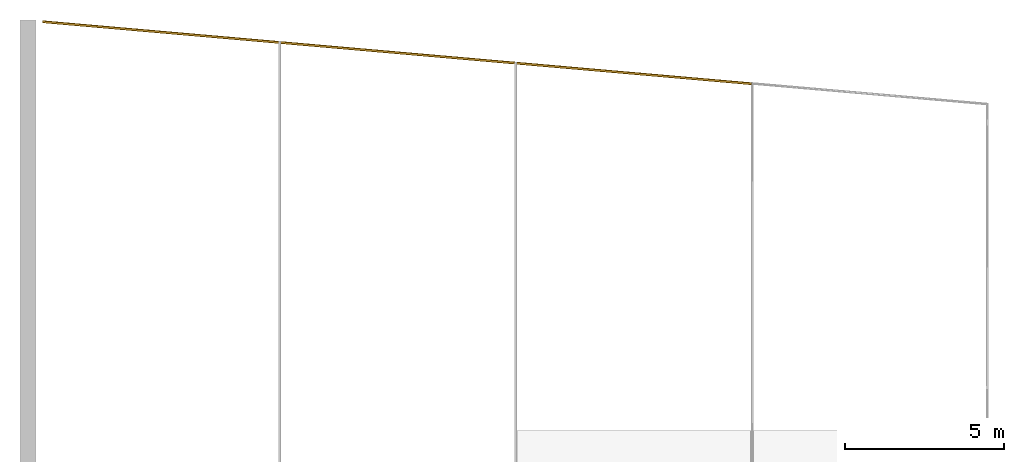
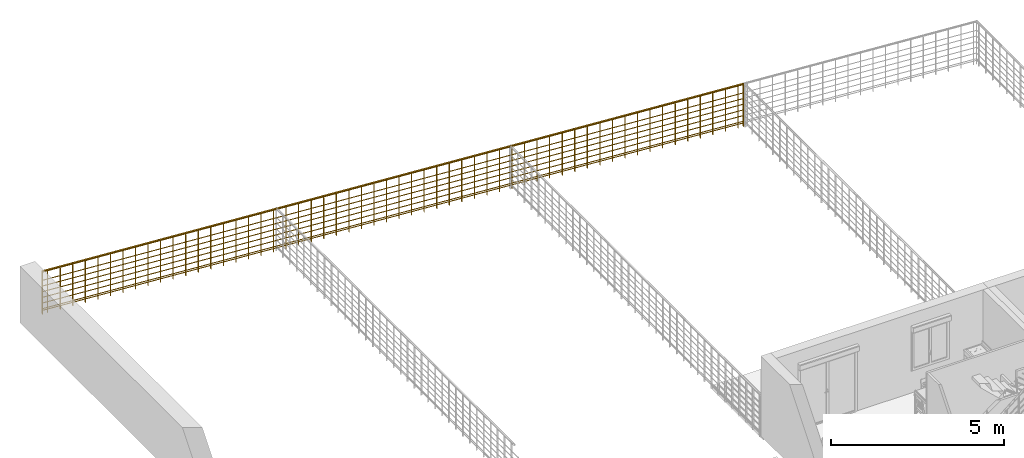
# One storey, part 28 of 30: 1 railing.
"""IFC2X3 building model written with IfcOpenShell, lengths in metres."""

from ifc_helpers import new_model, entity, si_unit, converted_unit, derived_unit, direction, frame, frame_2d, origin, origin_2d_with_axis, place, context, subcontext, project, spatial, polyline, rectangle, circle, outline, extrude, material, material_list, element, save


model = new_model("IFC2X3")

# Units and contexts
model_context = context("Model", 3, precision=1e-05, world=origin(), true_north=direction((6.12303176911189e-17, 1.0)))
body_context = subcontext(model_context, "Body", "Model", "MODEL_VIEW")
ifc_project = project(units=[si_unit("LENGTHUNIT", "METRE"), si_unit("AREAUNIT", "SQUARE_METRE"), si_unit("VOLUMEUNIT", "CUBIC_METRE"), converted_unit("PLANEANGLEUNIT", "DEGREE", entity("IfcRatioMeasure", 0.0174532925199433), si_unit("PLANEANGLEUNIT", "RADIAN"), dimensions=[0, 0, 0, 0, 0, 0, 0]), si_unit("MASSUNIT", "GRAM", prefix="KILO"), derived_unit("MASSDENSITYUNIT", [(si_unit("MASSUNIT", "GRAM", prefix="KILO"), 1), (si_unit("LENGTHUNIT", "METRE"), -3)]), si_unit("TIMEUNIT", "SECOND"), si_unit("FREQUENCYUNIT", "HERTZ"), si_unit("THERMODYNAMICTEMPERATUREUNIT", "DEGREE_CELSIUS"), derived_unit("THERMALTRANSMITTANCEUNIT", [(si_unit("MASSUNIT", "GRAM", prefix="KILO"), 1), (si_unit("THERMODYNAMICTEMPERATUREUNIT", "KELVIN"), -1), (si_unit("TIMEUNIT", "SECOND"), -3)]), derived_unit("VOLUMETRICFLOWRATEUNIT", [(si_unit("LENGTHUNIT", "METRE"), 3), (si_unit("TIMEUNIT", "SECOND"), -1)]), si_unit("ELECTRICCURRENTUNIT", "AMPERE"), si_unit("ELECTRICVOLTAGEUNIT", "VOLT"), si_unit("POWERUNIT", "WATT"), si_unit("FORCEUNIT", "NEWTON", prefix="KILO"), si_unit("ILLUMINANCEUNIT", "LUX"), si_unit("LUMINOUSFLUXUNIT", "LUMEN"), si_unit("LUMINOUSINTENSITYUNIT", "CANDELA"), derived_unit("USERDEFINED", [(si_unit("MASSUNIT", "GRAM", prefix="KILO"), -1), (si_unit("LENGTHUNIT", "METRE"), -2), (si_unit("TIMEUNIT", "SECOND"), 3), (si_unit("LUMINOUSFLUXUNIT", "LUMEN"), 1)]), derived_unit("LINEARVELOCITYUNIT", [(si_unit("LENGTHUNIT", "METRE"), 1), (si_unit("TIMEUNIT", "SECOND"), -1)]), si_unit("PRESSUREUNIT", "PASCAL"), derived_unit("USERDEFINED", [(si_unit("LENGTHUNIT", "METRE"), -2), (si_unit("MASSUNIT", "GRAM", prefix="KILO"), 1), (si_unit("TIMEUNIT", "SECOND"), -2)])], contexts=[model_context])

# Site, building, storey
site_placement = place(None, origin())
site = spatial("IfcSite", under=ifc_project, at=site_placement, Name="Surface", CompositionType="ELEMENT")
building_placement = place(site_placement, origin())
building = spatial("IfcBuilding", under=site, at=building_placement, CompositionType="ELEMENT")
storey_placement = place(building_placement, origin())
storey = spatial("IfcBuildingStorey", under=building, at=storey_placement, Name="Plan des fondations  Maisons 1 et 2", CompositionType="ELEMENT", Elevation=0.0)

# Railing
ifc_material_1 = material(Name="Bois")
ifc_material_2 = material(Name="Finition Peinture Grise")
ifc_material_list = material_list([ifc_material_1, ifc_material_2])
railing_placement = place(building_placement, origin())
element("IfcRailing", 1, at=railing_placement, inside=storey, material=ifc_material_list, Name="Garde-corps:Type Bateau 1,50 m", ObjectType="Garde-corps:Type Bateau 1,50 m", PredefinedType="NOTDEFINED", context=body_context, shape_type="SweptSolid", body=[
    extrude(rectangle(XDim=0.0499999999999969, YDim=0.0139999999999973, at=frame_2d((-3.78169717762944e-16, 4.3155583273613e-15), x_axis=(1.0, 0.0))), frame((61.640560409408, 108.276178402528, -0.1), z_axis=(0.0, 0.0, 1.0), x_axis=(-0.0871557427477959, -0.996194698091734, 0.0)), (0.0, 0.0, 1.0), 1.46984653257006),
    extrude(rectangle(XDim=0.0499999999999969, YDim=0.0139999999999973, at=frame_2d((-3.78169717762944e-16, 4.3155583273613e-15), x_axis=(1.0, 0.0))), frame((62.0390382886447, 108.241316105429, -0.1), z_axis=(0.0, 0.0, 1.0), x_axis=(-0.0871557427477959, -0.996194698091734, 0.0)), (0.0, 0.0, 1.0), 1.46984653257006),
    extrude(rectangle(XDim=0.0499999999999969, YDim=0.0139999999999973, at=frame_2d((-3.78169717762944e-16, 4.3155583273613e-15), x_axis=(1.0, 0.0))), frame((62.4375161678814, 108.20645380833, -0.1), z_axis=(0.0, 0.0, 1.0), x_axis=(-0.0871557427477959, -0.996194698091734, 0.0)), (0.0, 0.0, 1.0), 1.46984653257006),
    extrude(rectangle(XDim=0.0499999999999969, YDim=0.0139999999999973, at=frame_2d((-3.78169717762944e-16, 4.3155583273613e-15), x_axis=(1.0, 0.0))), frame((62.8359940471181, 108.171591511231, -0.1), z_axis=(0.0, 0.0, 1.0), x_axis=(-0.0871557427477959, -0.996194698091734, 0.0)), (0.0, 0.0, 1.0), 1.46984653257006),
    extrude(rectangle(XDim=0.0499999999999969, YDim=0.0139999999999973, at=frame_2d((-3.78169717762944e-16, 4.3155583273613e-15), x_axis=(1.0, 0.0))), frame((63.2344719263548, 108.136729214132, -0.1), z_axis=(0.0, 0.0, 1.0), x_axis=(-0.0871557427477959, -0.996194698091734, 0.0)), (0.0, 0.0, 1.0), 1.46984653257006),
    extrude(rectangle(XDim=0.0499999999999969, YDim=0.0139999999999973, at=frame_2d((3.78169717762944e-16, -4.3155583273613e-15), x_axis=(1.0, 0.0))), frame((63.6329498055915, 108.101866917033, -0.1), z_axis=(0.0, 0.0, 1.0), x_axis=(-0.0871557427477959, -0.996194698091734, 0.0)), (0.0, 0.0, 1.0), 1.46984653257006),
    extrude(rectangle(XDim=0.0499999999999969, YDim=0.0139999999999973, at=frame_2d((-3.78169717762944e-16, 4.3155583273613e-15), x_axis=(1.0, 0.0))), frame((64.0314276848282, 108.067004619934, -0.1), z_axis=(0.0, 0.0, 1.0), x_axis=(-0.0871557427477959, -0.996194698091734, 0.0)), (0.0, 0.0, 1.0), 1.46984653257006),
    extrude(rectangle(XDim=0.0499999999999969, YDim=0.0139999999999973, at=frame_2d((-1.76386683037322e-14, 2.80548154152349e-15), x_axis=(1.0, 0.0))), frame((64.4299055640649, 108.032142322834, -0.1), z_axis=(0.0, 0.0, 1.0), x_axis=(-0.0871557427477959, -0.996194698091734, 0.0)), (0.0, 0.0, 1.0), 1.46984653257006),
    extrude(rectangle(XDim=0.0499999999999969, YDim=0.0139999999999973, at=frame_2d((-3.78169717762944e-16, 4.3155583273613e-15), x_axis=(1.0, 0.0))), frame((64.8283834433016, 107.997280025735, -0.1), z_axis=(0.0, 0.0, 1.0), x_axis=(-0.0871557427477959, -0.996194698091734, 0.0)), (0.0, 0.0, 1.0), 1.46984653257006),
    extrude(rectangle(XDim=0.0499999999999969, YDim=0.0139999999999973, at=frame_2d((-3.78169717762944e-16, 4.3155583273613e-15), x_axis=(1.0, 0.0))), frame((65.2268613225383, 107.962417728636, -0.1), z_axis=(0.0, 0.0, 1.0), x_axis=(-0.0871557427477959, -0.996194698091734, 0.0)), (0.0, 0.0, 1.0), 1.46984653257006),
    extrude(rectangle(XDim=0.0499999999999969, YDim=0.0139999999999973, at=frame_2d((-3.78169717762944e-16, 4.3155583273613e-15), x_axis=(1.0, 0.0))), frame((65.625339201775, 107.927555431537, -0.1), z_axis=(0.0, 0.0, 1.0), x_axis=(-0.0871557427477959, -0.996194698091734, 0.0)), (0.0, 0.0, 1.0), 1.46984653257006),
    extrude(rectangle(XDim=0.0499999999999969, YDim=0.0139999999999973, at=frame_2d((-3.78169717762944e-16, 4.3155583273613e-15), x_axis=(1.0, 0.0))), frame((66.0238170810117, 107.892693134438, -0.1), z_axis=(0.0, 0.0, 1.0), x_axis=(-0.0871557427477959, -0.996194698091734, 0.0)), (0.0, 0.0, 1.0), 1.46984653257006),
    extrude(rectangle(XDim=0.0499999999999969, YDim=0.0139999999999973, at=frame_2d((-3.78169717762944e-16, 4.3155583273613e-15), x_axis=(1.0, 0.0))), frame((66.4222949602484, 107.857830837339, -0.1), z_axis=(0.0, 0.0, 1.0), x_axis=(-0.0871557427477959, -0.996194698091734, 0.0)), (0.0, 0.0, 1.0), 1.46984653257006),
    extrude(rectangle(XDim=0.0499999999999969, YDim=0.0139999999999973, at=frame_2d((-3.78169717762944e-16, 4.3155583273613e-15), x_axis=(1.0, 0.0))), frame((66.8207728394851, 107.82296854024, -0.1), z_axis=(0.0, 0.0, 1.0), x_axis=(-0.0871557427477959, -0.996194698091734, 0.0)), (0.0, 0.0, 1.0), 1.46984653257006),
    extrude(rectangle(XDim=0.0499999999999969, YDim=0.0139999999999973, at=frame_2d((-1.76386683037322e-14, 2.80548154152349e-15), x_axis=(1.0, 0.0))), frame((67.2192507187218, 107.788106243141, -0.1), z_axis=(0.0, 0.0, 1.0), x_axis=(-0.0871557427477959, -0.996194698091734, 0.0)), (0.0, 0.0, 1.0), 1.46984653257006),
    extrude(rectangle(XDim=0.0499999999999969, YDim=0.0139999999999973, at=frame_2d((-3.78169717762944e-16, 4.3155583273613e-15), x_axis=(1.0, 0.0))), frame((67.6177285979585, 107.753243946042, -0.1), z_axis=(0.0, 0.0, 1.0), x_axis=(-0.0871557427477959, -0.996194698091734, 0.0)), (0.0, 0.0, 1.0), 1.46984653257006),
    extrude(rectangle(XDim=0.0499999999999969, YDim=0.0139999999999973, at=frame_2d((-3.78169717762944e-16, 4.3155583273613e-15), x_axis=(1.0, 0.0))), frame((68.0162064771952, 107.718381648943, -0.1), z_axis=(0.0, 0.0, 1.0), x_axis=(-0.0871557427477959, -0.996194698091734, 0.0)), (0.0, 0.0, 1.0), 1.46984653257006),
    extrude(rectangle(XDim=0.0499999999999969, YDim=0.0139999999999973, at=frame_2d((3.78169717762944e-16, -4.3155583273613e-15), x_axis=(1.0, 0.0))), frame((68.4146843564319, 107.683519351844, -0.1), z_axis=(0.0, 0.0, 1.0), x_axis=(-0.0871557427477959, -0.996194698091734, 0.0)), (0.0, 0.0, 1.0), 1.46984653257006),
    extrude(rectangle(XDim=0.0499999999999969, YDim=0.0139999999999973, at=frame_2d((-3.78169717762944e-16, 4.3155583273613e-15), x_axis=(1.0, 0.0))), frame((68.8131622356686, 107.648657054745, -0.1), z_axis=(0.0, 0.0, 1.0), x_axis=(-0.0871557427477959, -0.996194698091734, 0.0)), (0.0, 0.0, 1.0), 1.46984653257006),
    extrude(rectangle(XDim=0.0499999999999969, YDim=0.0139999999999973, at=frame_2d((-3.78169717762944e-16, 4.3155583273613e-15), x_axis=(1.0, 0.0))), frame((69.2116401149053, 107.613794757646, -0.1), z_axis=(0.0, 0.0, 1.0), x_axis=(-0.0871557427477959, -0.996194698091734, 0.0)), (0.0, 0.0, 1.0), 1.46984653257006),
    extrude(rectangle(XDim=0.0499999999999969, YDim=0.0139999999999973, at=frame_2d((-3.78169717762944e-16, 4.3155583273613e-15), x_axis=(1.0, 0.0))), frame((69.610117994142, 107.578932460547, -0.1), z_axis=(0.0, 0.0, 1.0), x_axis=(-0.0871557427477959, -0.996194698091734, 0.0)), (0.0, 0.0, 1.0), 1.46984653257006),
    extrude(rectangle(XDim=0.0499999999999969, YDim=0.0139999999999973, at=frame_2d((-3.78169717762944e-16, 4.3155583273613e-15), x_axis=(1.0, 0.0))), frame((70.0085958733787, 107.544070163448, -0.1), z_axis=(0.0, 0.0, 1.0), x_axis=(-0.0871557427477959, -0.996194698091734, 0.0)), (0.0, 0.0, 1.0), 1.46984653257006),
    extrude(rectangle(XDim=0.0499999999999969, YDim=0.0139999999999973, at=frame_2d((-3.78169717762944e-16, 4.3155583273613e-15), x_axis=(1.0, 0.0))), frame((70.4070737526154, 107.509207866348, -0.1), z_axis=(0.0, 0.0, 1.0), x_axis=(-0.0871557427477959, -0.996194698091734, 0.0)), (0.0, 0.0, 1.0), 1.46984653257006),
    extrude(rectangle(XDim=0.0499999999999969, YDim=0.0139999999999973, at=frame_2d((-3.78169717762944e-16, 4.3155583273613e-15), x_axis=(1.0, 0.0))), frame((70.8055516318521, 107.474345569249, -0.1), z_axis=(0.0, 0.0, 1.0), x_axis=(-0.0871557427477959, -0.996194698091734, 0.0)), (0.0, 0.0, 1.0), 1.46984653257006),
    extrude(rectangle(XDim=0.0499999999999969, YDim=0.0139999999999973, at=frame_2d((3.78169717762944e-16, -4.3155583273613e-15), x_axis=(1.0, 0.0))), frame((71.2040295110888, 107.43948327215, -0.1), z_axis=(0.0, 0.0, 1.0), x_axis=(-0.0871557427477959, -0.996194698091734, 0.0)), (0.0, 0.0, 1.0), 1.46984653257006),
    extrude(rectangle(XDim=0.0499999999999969, YDim=0.0139999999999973, at=frame_2d((-3.78169717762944e-16, 4.3155583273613e-15), x_axis=(1.0, 0.0))), frame((71.6025073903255, 107.404620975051, -0.1), z_axis=(0.0, 0.0, 1.0), x_axis=(-0.0871557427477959, -0.996194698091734, 0.0)), (0.0, 0.0, 1.0), 1.46984653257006),
    extrude(rectangle(XDim=0.0499999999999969, YDim=0.0139999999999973, at=frame_2d((-3.78169717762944e-16, 4.3155583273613e-15), x_axis=(1.0, 0.0))), frame((72.0009852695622, 107.369758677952, -0.1), z_axis=(0.0, 0.0, 1.0), x_axis=(-0.0871557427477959, -0.996194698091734, 0.0)), (0.0, 0.0, 1.0), 1.46984653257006),
    extrude(rectangle(XDim=0.0499999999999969, YDim=0.0139999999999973, at=frame_2d((-3.78169717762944e-16, 4.3155583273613e-15), x_axis=(1.0, 0.0))), frame((72.3994631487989, 107.334896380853, -0.1), z_axis=(0.0, 0.0, 1.0), x_axis=(-0.0871557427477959, -0.996194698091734, 0.0)), (0.0, 0.0, 1.0), 1.46984653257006),
    extrude(rectangle(XDim=0.0499999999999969, YDim=0.0139999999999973, at=frame_2d((-3.78169717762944e-16, 4.3155583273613e-15), x_axis=(1.0, 0.0))), frame((72.7979410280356, 107.300034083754, -0.1), z_axis=(0.0, 0.0, 1.0), x_axis=(-0.0871557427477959, -0.996194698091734, 0.0)), (0.0, 0.0, 1.0), 1.46984653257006),
    extrude(rectangle(XDim=0.0499999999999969, YDim=0.0139999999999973, at=frame_2d((-1.76386683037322e-14, 2.80548154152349e-15), x_axis=(1.0, 0.0))), frame((73.1964189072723, 107.265171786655, -0.1), z_axis=(0.0, 0.0, 1.0), x_axis=(-0.0871557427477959, -0.996194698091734, 0.0)), (0.0, 0.0, 1.0), 1.46984653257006),
    extrude(rectangle(XDim=0.0499999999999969, YDim=0.0139999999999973, at=frame_2d((-3.78169717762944e-16, 4.3155583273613e-15), x_axis=(1.0, 0.0))), frame((73.594896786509, 107.230309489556, -0.1), z_axis=(0.0, 0.0, 1.0), x_axis=(-0.0871557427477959, -0.996194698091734, 0.0)), (0.0, 0.0, 1.0), 1.46984653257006),
    extrude(rectangle(XDim=0.0499999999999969, YDim=0.0139999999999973, at=frame_2d((-3.78169717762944e-16, 4.3155583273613e-15), x_axis=(1.0, 0.0))), frame((73.9933746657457, 107.195447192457, -0.1), z_axis=(0.0, 0.0, 1.0), x_axis=(-0.0871557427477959, -0.996194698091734, 0.0)), (0.0, 0.0, 1.0), 1.46984653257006),
    extrude(rectangle(XDim=0.0499999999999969, YDim=0.0139999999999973, at=frame_2d((-3.78169717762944e-16, 4.3155583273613e-15), x_axis=(1.0, 0.0))), frame((74.3918525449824, 107.160584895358, -0.1), z_axis=(0.0, 0.0, 1.0), x_axis=(-0.0871557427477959, -0.996194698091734, 0.0)), (0.0, 0.0, 1.0), 1.46984653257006),
    extrude(rectangle(XDim=0.0499999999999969, YDim=0.0139999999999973, at=frame_2d((-3.78169717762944e-16, 4.3155583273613e-15), x_axis=(1.0, 0.0))), frame((74.7903304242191, 107.125722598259, -0.1), z_axis=(0.0, 0.0, 1.0), x_axis=(-0.0871557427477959, -0.996194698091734, 0.0)), (0.0, 0.0, 1.0), 1.46984653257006),
    extrude(rectangle(XDim=0.0499999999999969, YDim=0.0139999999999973, at=frame_2d((-3.78169717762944e-16, 4.3155583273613e-15), x_axis=(1.0, 0.0))), frame((75.1888083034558, 107.09086030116, -0.1), z_axis=(0.0, 0.0, 1.0), x_axis=(-0.0871557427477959, -0.996194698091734, 0.0)), (0.0, 0.0, 1.0), 1.46984653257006),
    extrude(rectangle(XDim=0.0499999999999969, YDim=0.0139999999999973, at=frame_2d((-3.78169717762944e-16, 4.3155583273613e-15), x_axis=(1.0, 0.0))), frame((75.5872861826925, 107.055998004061, -0.1), z_axis=(0.0, 0.0, 1.0), x_axis=(-0.0871557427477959, -0.996194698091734, 0.0)), (0.0, 0.0, 1.0), 1.46984653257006),
    extrude(rectangle(XDim=0.0499999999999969, YDim=0.0139999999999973, at=frame_2d((-1.76386683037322e-14, 2.80548154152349e-15), x_axis=(1.0, 0.0))), frame((75.9857640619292, 107.021135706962, -0.1), z_axis=(0.0, 0.0, 1.0), x_axis=(-0.0871557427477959, -0.996194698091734, 0.0)), (0.0, 0.0, 1.0), 1.46984653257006),
    extrude(rectangle(XDim=0.0499999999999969, YDim=0.0139999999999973, at=frame_2d((-3.78169717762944e-16, 4.3155583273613e-15), x_axis=(1.0, 0.0))), frame((76.3842419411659, 106.986273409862, -0.1), z_axis=(0.0, 0.0, 1.0), x_axis=(-0.0871557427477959, -0.996194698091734, 0.0)), (0.0, 0.0, 1.0), 1.46984653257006),
    extrude(rectangle(XDim=0.0499999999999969, YDim=0.0139999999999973, at=frame_2d((-3.78169717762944e-16, 4.3155583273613e-15), x_axis=(1.0, 0.0))), frame((76.7827198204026, 106.951411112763, -0.1), z_axis=(0.0, 0.0, 1.0), x_axis=(-0.0871557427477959, -0.996194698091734, 0.0)), (0.0, 0.0, 1.0), 1.46984653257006),
    extrude(rectangle(XDim=0.0499999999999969, YDim=0.0139999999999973, at=frame_2d((-3.78169717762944e-16, 4.3155583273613e-15), x_axis=(1.0, 0.0))), frame((77.1811976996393, 106.916548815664, -0.1), z_axis=(0.0, 0.0, 1.0), x_axis=(-0.0871557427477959, -0.996194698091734, 0.0)), (0.0, 0.0, 1.0), 1.46984653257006),
    extrude(rectangle(XDim=0.0499999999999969, YDim=0.0139999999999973, at=frame_2d((-3.78169717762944e-16, 4.3155583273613e-15), x_axis=(1.0, 0.0))), frame((77.579675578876, 106.881686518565, -0.1), z_axis=(0.0, 0.0, 1.0), x_axis=(-0.0871557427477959, -0.996194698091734, 0.0)), (0.0, 0.0, 1.0), 1.46984653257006),
    extrude(rectangle(XDim=0.0499999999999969, YDim=0.0139999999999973, at=frame_2d((-3.78169717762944e-16, 4.3155583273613e-15), x_axis=(1.0, 0.0))), frame((77.9781534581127, 106.846824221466, -0.1), z_axis=(0.0, 0.0, 1.0), x_axis=(-0.0871557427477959, -0.996194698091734, 0.0)), (0.0, 0.0, 1.0), 1.46984653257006),
    extrude(rectangle(XDim=0.0499999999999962, YDim=0.0140000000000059, at=origin_2d_with_axis()), frame((78.3766313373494, 106.811961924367, -0.1), z_axis=(0.0, 0.0, 1.0), x_axis=(-0.087155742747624, -0.996194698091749, 0.0)), (0.0, 0.0, 1.0), 1.46984653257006),
    extrude(rectangle(XDim=0.0499999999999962, YDim=0.0140000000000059, at=frame_2d((1.5109441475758e-15, -1.72596312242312e-14), x_axis=(1.0, 0.0))), frame((78.7751092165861, 106.777099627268, -0.1), z_axis=(0.0, 0.0, 1.0), x_axis=(-0.087155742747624, -0.996194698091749, 0.0)), (0.0, 0.0, 1.0), 1.46984653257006),
    extrude(rectangle(XDim=0.0499999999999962, YDim=0.0140000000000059, at=frame_2d((-1.72604985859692e-14, -1.5105104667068e-15), x_axis=(1.0, 0.0))), frame((79.1735870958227, 106.742237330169, -0.1), z_axis=(0.0, 0.0, 1.0), x_axis=(-0.087155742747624, -0.996194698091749, 0.0)), (0.0, 0.0, 1.0), 1.46984653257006),
    extrude(rectangle(XDim=0.0499999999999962, YDim=0.0140000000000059, at=origin_2d_with_axis()), frame((79.5720649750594, 106.70737503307, -0.1), z_axis=(0.0, 0.0, 1.0), x_axis=(-0.087155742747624, -0.996194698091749, 0.0)), (0.0, 0.0, 1.0), 1.46984653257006),
    extrude(rectangle(XDim=0.0499999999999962, YDim=0.0140000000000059, at=origin_2d_with_axis()), frame((79.9705428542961, 106.672512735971, -0.1), z_axis=(0.0, 0.0, 1.0), x_axis=(-0.087155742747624, -0.996194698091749, 0.0)), (0.0, 0.0, 1.0), 1.46984653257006),
    extrude(rectangle(XDim=0.0499999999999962, YDim=0.0140000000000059, at=origin_2d_with_axis()), frame((80.3690207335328, 106.637650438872, -0.1), z_axis=(0.0, 0.0, 1.0), x_axis=(-0.087155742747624, -0.996194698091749, 0.0)), (0.0, 0.0, 1.0), 1.46984653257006),
    extrude(rectangle(XDim=0.0499999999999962, YDim=0.0140000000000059, at=frame_2d((1.5109441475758e-15, -1.72596312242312e-14), x_axis=(1.0, 0.0))), frame((80.7674986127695, 106.602788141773, -0.1), z_axis=(0.0, 0.0, 1.0), x_axis=(-0.087155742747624, -0.996194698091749, 0.0)), (0.0, 0.0, 1.0), 1.46984653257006),
    extrude(rectangle(XDim=0.0499999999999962, YDim=0.0140000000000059, at=origin_2d_with_axis()), frame((81.1659764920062, 106.567925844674, -0.1), z_axis=(0.0, 0.0, 1.0), x_axis=(-0.087155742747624, -0.996194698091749, 0.0)), (0.0, 0.0, 1.0), 1.46984653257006),
    extrude(rectangle(XDim=0.0499999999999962, YDim=0.0140000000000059, at=origin_2d_with_axis()), frame((81.5644543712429, 106.533063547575, -0.1), z_axis=(0.0, 0.0, 1.0), x_axis=(-0.087155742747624, -0.996194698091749, 0.0)), (0.0, 0.0, 1.0), 1.46984653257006),
    extrude(rectangle(XDim=0.0499999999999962, YDim=0.0140000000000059, at=frame_2d((-1.72604985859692e-14, -1.5105104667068e-15), x_axis=(1.0, 0.0))), frame((81.9629322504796, 106.498201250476, -0.1), z_axis=(0.0, 0.0, 1.0), x_axis=(-0.087155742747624, -0.996194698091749, 0.0)), (0.0, 0.0, 1.0), 1.46984653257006),
    extrude(rectangle(XDim=0.0499999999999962, YDim=0.0140000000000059, at=origin_2d_with_axis()), frame((82.3614101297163, 106.463338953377, -0.1), z_axis=(0.0, 0.0, 1.0), x_axis=(-0.087155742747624, -0.996194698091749, 0.0)), (0.0, 0.0, 1.0), 1.46984653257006),
    extrude(rectangle(XDim=0.0499999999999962, YDim=0.0140000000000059, at=origin_2d_with_axis()), frame((82.759888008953, 106.428476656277, -0.1), z_axis=(0.0, 0.0, 1.0), x_axis=(-0.087155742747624, -0.996194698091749, 0.0)), (0.0, 0.0, 1.0), 1.46984653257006),
    extrude(rectangle(XDim=0.0499999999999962, YDim=0.0140000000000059, at=origin_2d_with_axis()), frame((83.1583658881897, 106.393614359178, -0.1), z_axis=(0.0, 0.0, 1.0), x_axis=(-0.087155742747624, -0.996194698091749, 0.0)), (0.0, 0.0, 1.0), 1.46984653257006),
    extrude(rectangle(XDim=0.0499999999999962, YDim=0.0140000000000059, at=frame_2d((1.5109441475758e-15, -1.72596312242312e-14), x_axis=(1.0, 0.0))), frame((83.5568437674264, 106.358752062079, -0.1), z_axis=(0.0, 0.0, 1.0), x_axis=(-0.087155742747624, -0.996194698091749, 0.0)), (0.0, 0.0, 1.0), 1.46984653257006),
    extrude(rectangle(XDim=0.0499999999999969, YDim=0.0139999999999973, at=frame_2d((-3.78169717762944e-16, 4.3155583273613e-15), x_axis=(1.0, 0.0))), frame((61.4695325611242, 108.2911414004, -0.1), z_axis=(0.0, 0.0, 1.0), x_axis=(-0.0871557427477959, -0.996194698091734, 0.0)), (0.0, 0.0, 1.0), 1.46984653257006),
    extrude(rectangle(XDim=0.0499999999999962, YDim=0.0140000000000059, at=frame_2d((-1.72604985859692e-14, -1.5105104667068e-15), x_axis=(1.0, 0.0))), frame((83.7278716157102, 106.343789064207, -0.1), z_axis=(0.0, 0.0, 1.0), x_axis=(-0.087155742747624, -0.996194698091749, 0.0)), (0.0, 0.0, 1.0), 1.46984653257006),
    extrude(outline(polyline([(-0.0109067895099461, -0.0384843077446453), (0.00177588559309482, -0.0384843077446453), (0.0141514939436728, -0.0318300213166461), (0.0240801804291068, -0.0196720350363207), (0.0298451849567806, -0.00411257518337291), (0.0304496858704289, 0.0121579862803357), (0.025789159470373, 0.026326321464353), (0.0166694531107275, 0.0359425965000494), (0.0109067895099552, 0.0384843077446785), (-0.00177588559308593, 0.0384843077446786), (-0.0141514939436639, 0.0318300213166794), (-0.0240801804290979, 0.0196720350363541), (-0.0298451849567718, 0.00411257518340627), (-0.0304496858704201, -0.0121579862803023), (-0.0257891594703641, -0.0263263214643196), (-0.0166694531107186, -0.035942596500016), (-0.0109067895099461, -0.0384843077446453)])), frame((83.7389646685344, 106.342317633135, 1.4), z_axis=(-0.996194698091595, 0.0871557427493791, 0.0), x_axis=(0.0237647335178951, 0.271632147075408, 0.962107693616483)), (0.0, 0.0, 1.0), 22.3633622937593),
    extrude(circle(Radius=0.015, at=origin_2d_with_axis()), frame((83.7389646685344, 106.342317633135, 0.025), z_axis=(-0.996194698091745, 0.0871557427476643, 0.0), x_axis=(0.0871557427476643, 0.996194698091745, 0.0)), (0.0, 0.0, 1.0), 22.3633622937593),
    extrude(circle(Radius=0.015, at=origin_2d_with_axis()), frame((83.7389646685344, 106.342317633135, 1.085), z_axis=(-0.996194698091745, 0.0871557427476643, 0.0), x_axis=(0.0871557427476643, 0.996194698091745, 0.0)), (0.0, 0.0, 1.0), 22.3633622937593),
    extrude(circle(Radius=0.015, at=origin_2d_with_axis()), frame((83.7389646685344, 106.342317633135, 0.885), z_axis=(-0.996194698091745, 0.0871557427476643, 0.0), x_axis=(0.0871557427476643, 0.996194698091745, 0.0)), (0.0, 0.0, 1.0), 22.3633622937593),
    extrude(circle(Radius=0.015, at=origin_2d_with_axis()), frame((83.7389646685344, 106.342317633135, 0.685), z_axis=(-0.996194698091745, 0.0871557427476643, 0.0), x_axis=(0.0871557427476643, 0.996194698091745, 0.0)), (0.0, 0.0, 1.0), 22.3633622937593),
    extrude(circle(Radius=0.015, at=origin_2d_with_axis()), frame((83.7389646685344, 106.342317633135, 0.485), z_axis=(-0.996194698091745, 0.0871557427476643, 0.0), x_axis=(0.0871557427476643, 0.996194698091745, 0.0)), (0.0, 0.0, 1.0), 22.3633622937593),
    extrude(circle(Radius=0.015, at=origin_2d_with_axis()), frame((83.7389646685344, 106.342317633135, 0.285), z_axis=(-0.996194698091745, 0.0871557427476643, 0.0), x_axis=(0.0871557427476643, 0.996194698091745, 0.0)), (0.0, 0.0, 1.0), 22.3633622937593),
    extrude(circle(Radius=0.015, at=origin_2d_with_axis()), frame((83.7389646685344, 106.342317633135, 0.085), z_axis=(-0.996194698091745, 0.0871557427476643, 0.0), x_axis=(0.0871557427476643, 0.996194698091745, 0.0)), (0.0, 0.0, 1.0), 22.3633622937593),
])

save(model, "model.ifc")
